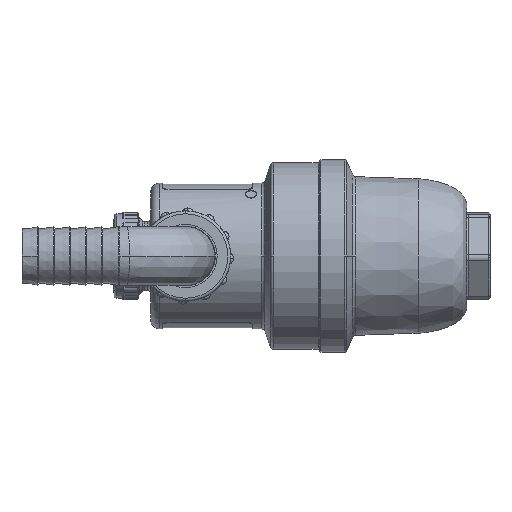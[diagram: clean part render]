
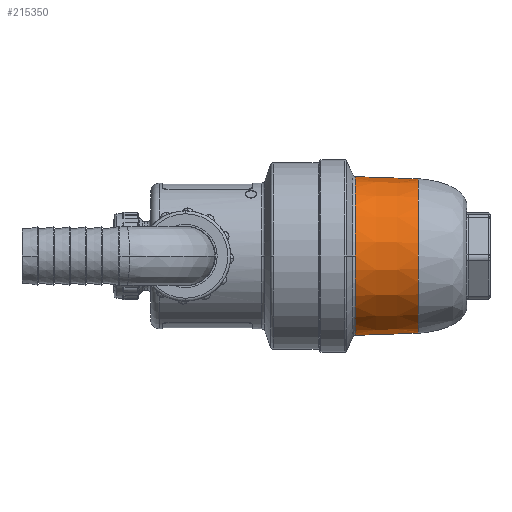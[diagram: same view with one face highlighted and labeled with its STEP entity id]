
A CAD part, left-side view. The second image highlights one B-rep face of the part: STEP entity #215350.
In plain terms, the highlighted conical face has half-angle 2 degrees and reference radius 27.229 mm.
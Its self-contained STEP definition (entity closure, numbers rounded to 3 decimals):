
#132 = CARTESIAN_POINT ( 'NONE',  ( 0., -27.814, 26.477 ) ) ;
#1467 = CARTESIAN_POINT ( 'NONE',  ( -4.363, -27.814, 26.17 ) ) ;
#4535 = CARTESIAN_POINT ( 'NONE',  ( -8.531, -27.814, -25.125 ) ) ;
#6073 = CARTESIAN_POINT ( 'NONE',  ( -26.477, -27.814, 0. ) ) ;
#7589 = CARTESIAN_POINT ( 'NONE',  ( -3.466, -27.814, -26.306 ) ) ;
#8512 = CARTESIAN_POINT ( 'NONE',  ( -26.477, -27.814, 0. ) ) ;
#14076 = CIRCLE ( 'NONE', #298245, 27.229 ) ;
#15168 = EDGE_LOOP ( 'NONE', ( #71422, #19403, #174899, #182737, #20779, #273810, #70137 ) ) ;
#17740 = CARTESIAN_POINT ( 'NONE',  ( 0., -6.294, -27.229 ) ) ;
#19403 = ORIENTED_EDGE ( 'NONE', *, *, #89278, .T. ) ;
#20779 = ORIENTED_EDGE ( 'NONE', *, *, #66154, .T. ) ;
#22515 = DIRECTION ( 'NONE',  ( 0., 0.999, 0.035 ) ) ;
#22912 = CARTESIAN_POINT ( 'NONE',  ( -9.269, -27.814, 24.859 ) ) ;
#24430 = CARTESIAN_POINT ( 'NONE',  ( -25.67, -27.814, 6.705 ) ) ;
#27507 = CARTESIAN_POINT ( 'NONE',  ( 0., -27.814, -26.477 ) ) ;
#35774 = AXIS2_PLACEMENT_3D ( 'NONE', #128417, #148393, #102375 ) ;
#44023 = CARTESIAN_POINT ( 'NONE',  ( 0., -6.294, 27.229 ) ) ;
#45959 = CARTESIAN_POINT ( 'NONE',  ( -25.188, -27.814, 8.335 ) ) ;
#47456 = CARTESIAN_POINT ( 'NONE',  ( -23.922, -27.814, 11.473 ) ) ;
#52049 = CARTESIAN_POINT ( 'NONE',  ( -1.733, -27.814, -26.477 ) ) ;
#55060 = CARTESIAN_POINT ( 'NONE',  ( -13.269, -27.814, -22.978 ) ) ;
#57226 = VERTEX_POINT ( 'NONE', #215251 ) ;
#63208 = CARTESIAN_POINT ( 'NONE',  ( 0., -6.294, 27.229 ) ) ;
#66116 = CARTESIAN_POINT ( 'NONE',  ( -0.659, -27.814, 26.471 ) ) ;
#66154 = EDGE_CURVE ( 'NONE', #57226, #214514, #232587, .T. ) ;
#70137 = ORIENTED_EDGE ( 'NONE', *, *, #77113, .T. ) ;
#71422 = ORIENTED_EDGE ( 'NONE', *, *, #196408, .F. ) ;
#71585 = CIRCLE ( 'NONE', #125451, 27.229 ) ;
#71954 = CARTESIAN_POINT ( 'NONE',  ( -0.988, -27.814, 26.459 ) ) ;
#77113 = EDGE_CURVE ( 'NONE', #122495, #134695, #71585, .T. ) ;
#78046 = CARTESIAN_POINT ( 'NONE',  ( -26.477, -27.814, -1.733 ) ) ;
#89278 = EDGE_CURVE ( 'NONE', #225514, #213113, #278592, .T. ) ;
#90441 = CARTESIAN_POINT ( 'NONE',  ( -21.298, -27.814, 15.82 ) ) ;
#98072 = CARTESIAN_POINT ( 'NONE',  ( -19.948, -27.814, -17.497 ) ) ;
#101079 = CARTESIAN_POINT ( 'NONE',  ( -11.733, -27.814, -23.798 ) ) ;
#101456 = DIRECTION ( 'NONE',  ( 0., -1., 0. ) ) ;
#102375 = DIRECTION ( 'NONE',  ( 0., 0., 1. ) ) ;
#112324 = CARTESIAN_POINT ( 'NONE',  ( -27.229, -6.294, 0. ) ) ;
#116470 = CARTESIAN_POINT ( 'NONE',  ( -7.658, -27.814, 25.402 ) ) ;
#116671 = CARTESIAN_POINT ( 'NONE',  ( 0., -27.814, -26.477 ) ) ;
#118003 = CARTESIAN_POINT ( 'NONE',  ( -16.604, -27.814, 20.693 ) ) ;
#122495 = VERTEX_POINT ( 'NONE', #112324 ) ;
#125451 = AXIS2_PLACEMENT_3D ( 'NONE', #271403, #289942, #269905 ) ;
#128417 = CARTESIAN_POINT ( 'NONE',  ( 0., -6.294, 0. ) ) ;
#134695 = VERTEX_POINT ( 'NONE', #17740 ) ;
#145578 = CARTESIAN_POINT ( 'NONE',  ( -26.306, -27.814, -3.466 ) ) ;
#148393 = DIRECTION ( 'NONE',  ( 0., 1., 0. ) ) ;
#148611 = CARTESIAN_POINT ( 'NONE',  ( -21.052, -27.814, -16.151 ) ) ;
#150329 = EDGE_CURVE ( 'NONE', #213113, #262325, #164976, .T. ) ;
#152896 = B_SPLINE_CURVE_WITH_KNOTS ( 'NONE', 3,
 ( #282260, #66116, #210167, #132 ),
 .UNSPECIFIED., .F., .F.,
 ( 4, 4 ),
 ( 0., 0.023 ),
 .UNSPECIFIED. ) ;
#153252 = CONICAL_SURFACE ( 'NONE', #35774, 27.229, 0.035 ) ;
#154813 = CARTESIAN_POINT ( 'NONE',  ( -0.988, -27.814, 26.459 ) ) ;
#159441 = CARTESIAN_POINT ( 'NONE',  ( -20.242, -27.814, 17.151 ) ) ;
#160929 = CARTESIAN_POINT ( 'NONE',  ( -13.835, -27.814, 22.638 ) ) ;
#162465 = CARTESIAN_POINT ( 'NONE',  ( -26.314, -27.814, 3.383 ) ) ;
#164976 = B_SPLINE_CURVE_WITH_KNOTS ( 'NONE', 3,
 ( #185434, #205441, #162465, #24430, #45959, #47456, #299056, #90441, #159441, #232997, #118003, #160929, #211489, #22912, #116470, #1467, #282052, #71954 ),
 .UNSPECIFIED., .F., .F.,
 ( 4, 2, 2, 2, 2, 2, 2, 2, 4 ),
 ( 0., 0.125, 0.25, 0.375, 0.5, 0.625, 0.75, 0.875, 1. ),
 .UNSPECIFIED. ) ;
#168586 = CARTESIAN_POINT ( 'NONE',  ( -22.978, -27.814, -13.269 ) ) ;
#174399 = EDGE_CURVE ( 'NONE', #262325, #57226, #152896, .T. ) ;
#174899 = ORIENTED_EDGE ( 'NONE', *, *, #150329, .T. ) ;
#182737 = ORIENTED_EDGE ( 'NONE', *, *, #174399, .T. ) ;
#185434 = CARTESIAN_POINT ( 'NONE',  ( -26.477, -27.814, 0. ) ) ;
#194570 = CARTESIAN_POINT ( 'NONE',  ( -23.798, -27.814, -11.733 ) ) ;
#196408 = EDGE_CURVE ( 'NONE', #225514, #134695, #253975, .T. ) ;
#205441 = CARTESIAN_POINT ( 'NONE',  ( -26.477, -27.814, 1.692 ) ) ;
#210167 = CARTESIAN_POINT ( 'NONE',  ( -0.329, -27.814, 26.477 ) ) ;
#211489 = CARTESIAN_POINT ( 'NONE',  ( -12.357, -27.814, 23.478 ) ) ;
#213113 = VERTEX_POINT ( 'NONE', #8512 ) ;
#214514 = VERTEX_POINT ( 'NONE', #63208 ) ;
#214557 = CARTESIAN_POINT ( 'NONE',  ( -6.865, -27.814, -25.63 ) ) ;
#215251 = CARTESIAN_POINT ( 'NONE',  ( 0., -27.814, 26.477 ) ) ;
#215350 = ADVANCED_FACE ( 'NONE', ( #218914 ), #153252, .T. ) ;
#218914 = FACE_OUTER_BOUND ( 'NONE', #15168, .T. ) ;
#222537 = DIRECTION ( 'NONE',  ( 0.037, 0., -0.999 ) ) ;
#225514 = VERTEX_POINT ( 'NONE', #116671 ) ;
#232470 = DIRECTION ( 'NONE',  ( 0., 0.999, -0.035 ) ) ;
#232587 = LINE ( 'NONE', #44023, #238608 ) ;
#232997 = CARTESIAN_POINT ( 'NONE',  ( -17.894, -27.814, 19.588 ) ) ;
#237982 = CARTESIAN_POINT ( 'NONE',  ( 0., -6.294, 0. ) ) ;
#238608 = VECTOR ( 'NONE', #22515, 1000. ) ;
#244545 = VECTOR ( 'NONE', #232470, 1000. ) ;
#253975 = LINE ( 'NONE', #278481, #244545 ) ;
#260846 = EDGE_CURVE ( 'NONE', #214514, #122495, #14076, .T. ) ;
#262131 = CARTESIAN_POINT ( 'NONE',  ( -25.63, -27.814, -6.865 ) ) ;
#262325 = VERTEX_POINT ( 'NONE', #154813 ) ;
#269905 = DIRECTION ( 'NONE',  ( 0.037, 0., -0.999 ) ) ;
#271403 = CARTESIAN_POINT ( 'NONE',  ( 0., -6.294, 0. ) ) ;
#273810 = ORIENTED_EDGE ( 'NONE', *, *, #260846, .T. ) ;
#278481 = CARTESIAN_POINT ( 'NONE',  ( 0., -6.294, -27.229 ) ) ;
#278592 = B_SPLINE_CURVE_WITH_KNOTS ( 'NONE', 3,
 ( #27507, #52049, #7589, #214557, #4535, #101079, #55060, #282096, #285163, #98072, #148611, #168586, #194570, #288158, #262131, #145578, #78046, #6073 ),
 .UNSPECIFIED., .F., .F.,
 ( 4, 2, 2, 2, 2, 2, 2, 2, 4 ),
 ( 0.023, 0.145, 0.267, 0.39, 0.512, 0.634, 0.756, 0.878, 1. ),
 .UNSPECIFIED. ) ;
#282052 = CARTESIAN_POINT ( 'NONE',  ( -2.678, -27.814, 26.396 ) ) ;
#282096 = CARTESIAN_POINT ( 'NONE',  ( -16.151, -27.814, -21.052 ) ) ;
#282260 = CARTESIAN_POINT ( 'NONE',  ( -0.988, -27.814, 26.459 ) ) ;
#285163 = CARTESIAN_POINT ( 'NONE',  ( -17.497, -27.814, -19.948 ) ) ;
#288158 = CARTESIAN_POINT ( 'NONE',  ( -25.125, -27.814, -8.531 ) ) ;
#289942 = DIRECTION ( 'NONE',  ( 0., -1., 0. ) ) ;
#298245 = AXIS2_PLACEMENT_3D ( 'NONE', #237982, #101456, #222537 ) ;
#299056 = CARTESIAN_POINT ( 'NONE',  ( -23.139, -27.814, 12.981 ) ) ;
